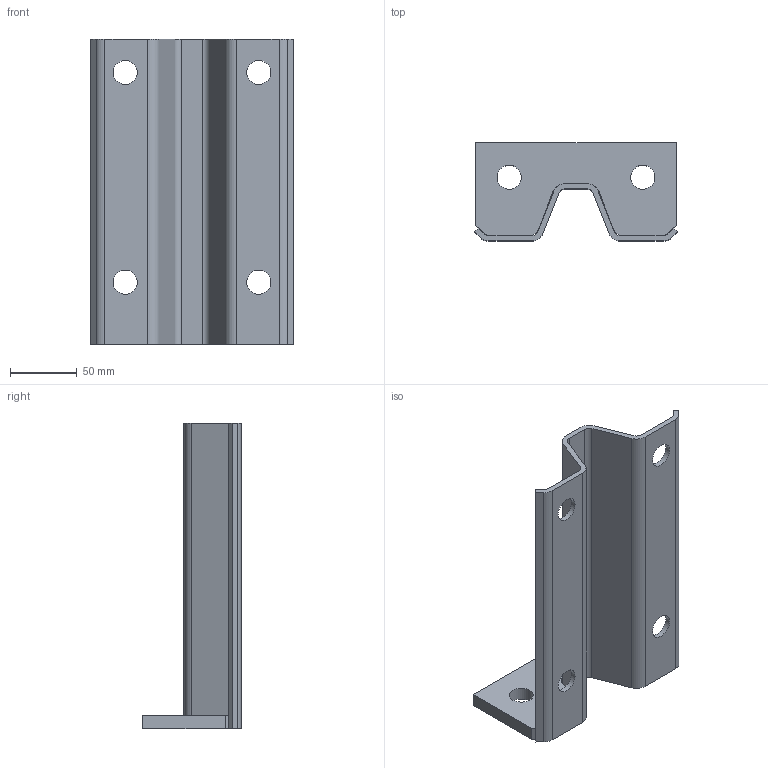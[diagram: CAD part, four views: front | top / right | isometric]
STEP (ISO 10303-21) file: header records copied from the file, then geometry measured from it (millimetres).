
FILE_DESCRIPTION(/* description */ (''),/* implementation_level */ '2;1');
FILE_NAME(/* name */ 'ZB240W100.stp',/* time_stamp */ '2023-07-03T11:21:56+02:00',/* author */ ('woriedl'),/* organization */ (''),/* preprocessor_version */ 'ST-DEVELOPER v19.2',/* originating_system */ 'AutoCAD Mechanical',/* authorisation */ '');
FILE_SCHEMA (('AUTOMOTIVE_DESIGN { 1 0 10303 214 3 1 1 }'));
Length unit declared in the file: centimetre
Products named in the file (1): Product
Bounding box: 151.72 x 74 x 229 mm (x, y, z)
Volume: 262088.9 mm3; surface area: 115416.2 mm2
Topology: 1 solids, 1 shells, 54 faces, 162 edges, 106 vertices
Faces by surface type: plane 30, cylinder 24
Full cylindrical faces by diameter (mm): 18 x6
Entity records: 1881 total; most frequent: ORIENTED_EDGE 324, CARTESIAN_POINT 323, DIRECTION 320, EDGE_CURVE 162, LINE 114, VECTOR 114, VERTEX_POINT 106, AXIS2_PLACEMENT_3D 103
